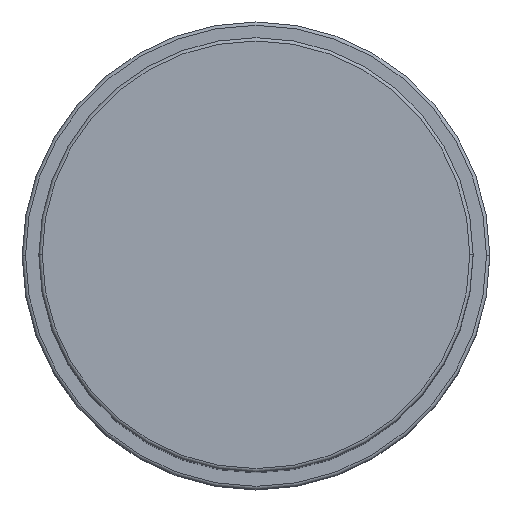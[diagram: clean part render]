
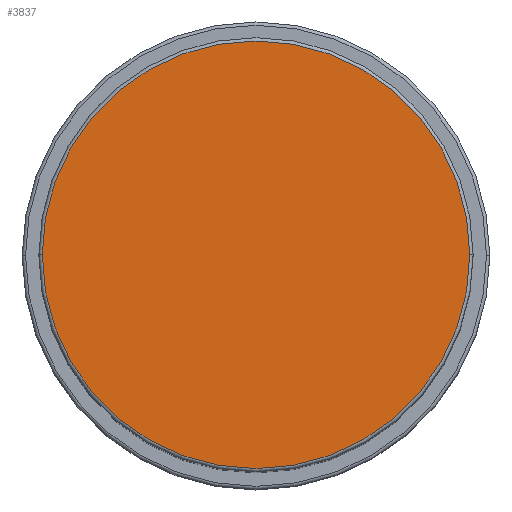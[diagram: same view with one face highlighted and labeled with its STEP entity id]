
A CAD part, top view. The second image highlights one B-rep face of the part: STEP entity #3837.
In plain terms, the highlighted planar face has unit normal (0, 0, 1).
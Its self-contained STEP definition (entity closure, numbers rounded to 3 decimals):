
#85 = DIRECTION ( 'NONE',  ( 0., 0., 1. ) ) ;
#547 = CARTESIAN_POINT ( 'NONE',  ( 0., 0., 117. ) ) ;
#620 = VERTEX_POINT ( 'NONE', #2996 ) ;
#769 = EDGE_CURVE ( 'NONE', #620, #1030, #1500, .T. ) ;
#1030 = VERTEX_POINT ( 'NONE', #3363 ) ;
#1401 = AXIS2_PLACEMENT_3D ( 'NONE', #5094, #85, #3818 ) ;
#1500 = CIRCLE ( 'NONE', #2683, 32. ) ;
#1775 = DIRECTION ( 'NONE',  ( 1., 0., 0. ) ) ;
#2129 = CARTESIAN_POINT ( 'NONE',  ( 0., 0., 117. ) ) ;
#2270 = DIRECTION ( 'NONE',  ( 0., 0., 1. ) ) ;
#2561 = PLANE ( 'NONE',  #3700 ) ;
#2683 = AXIS2_PLACEMENT_3D ( 'NONE', #547, #2270, #5169 ) ;
#2996 = CARTESIAN_POINT ( 'NONE',  ( -32., 0., 117. ) ) ;
#3297 = EDGE_CURVE ( 'NONE', #1030, #620, #5443, .T. ) ;
#3363 = CARTESIAN_POINT ( 'NONE',  ( 32., 0., 117. ) ) ;
#3478 = DIRECTION ( 'NONE',  ( 0., 0., 1. ) ) ;
#3700 = AXIS2_PLACEMENT_3D ( 'NONE', #2129, #3478, #1775 ) ;
#3818 = DIRECTION ( 'NONE',  ( 1., 0., 0. ) ) ;
#3837 = ADVANCED_FACE ( 'NONE', ( #3966 ), #2561, .T. ) ;
#3966 = FACE_OUTER_BOUND ( 'NONE', #4888, .T. ) ;
#4048 = ORIENTED_EDGE ( 'NONE', *, *, #3297, .T. ) ;
#4888 = EDGE_LOOP ( 'NONE', ( #4048, #5060 ) ) ;
#5060 = ORIENTED_EDGE ( 'NONE', *, *, #769, .T. ) ;
#5094 = CARTESIAN_POINT ( 'NONE',  ( 0., 0., 117. ) ) ;
#5169 = DIRECTION ( 'NONE',  ( 1., 0., 0. ) ) ;
#5443 = CIRCLE ( 'NONE', #1401, 32. ) ;
